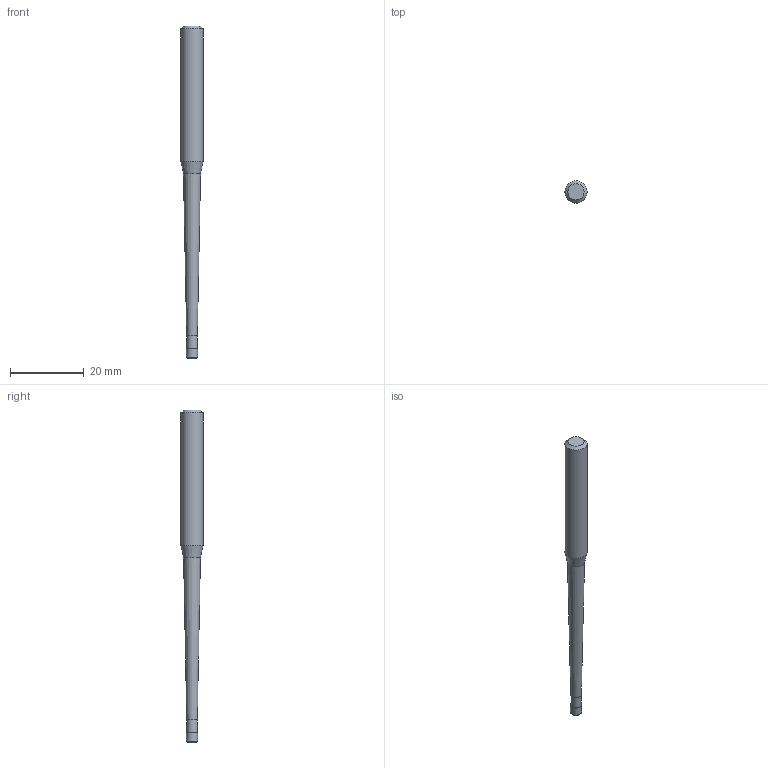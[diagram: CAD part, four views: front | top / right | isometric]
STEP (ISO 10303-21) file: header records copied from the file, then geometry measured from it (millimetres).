
FILE_DESCRIPTION((''),'2;1');
FILE_NAME('C:\Users\nsx150\AppData\Local\Temp\Mastercam 2021\YKS1SUSFZB\TEMP.step','2025-06-23T14:04:54',(''),(''),'STEP Write','Mastercam 2021 ... CNC Software, Inc.','');
FILE_SCHEMA(('AUTOMOTIVE_DESIGN'));
Length unit declared in the file: millimetre
Products named in the file (1): None
Bounding box: 6 x 6 x 90 mm (x, y, z)
Volume: 1645.1 mm3; surface area: 1362.3 mm2
Topology: 2 solids, 2 shells, 11 faces, 16 edges, 9 vertices
Faces by surface type: plane 4, cylinder 3, cone 3, torus 1
Full cylindrical faces by diameter (mm): 2.885 x1, 3 x1, 6 x1
Entity records: 253 total; most frequent: DIRECTION 44, CARTESIAN_POINT 31, AXIS2_PLACEMENT_3D 22, ORIENTED_EDGE 18, EDGE_LOOP 18, STYLED_ITEM 14, ADVANCED_FACE 11, FACE_BOUND 11
